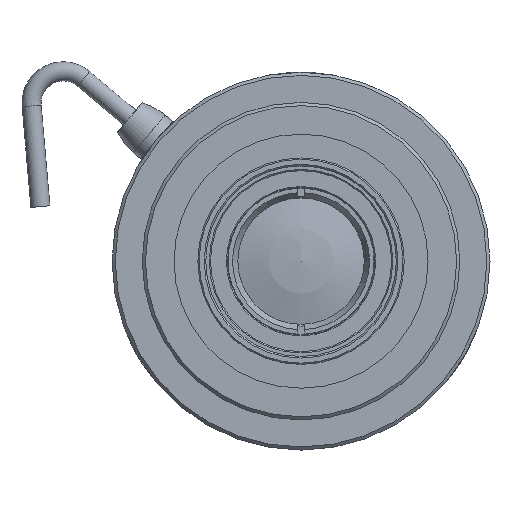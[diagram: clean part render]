
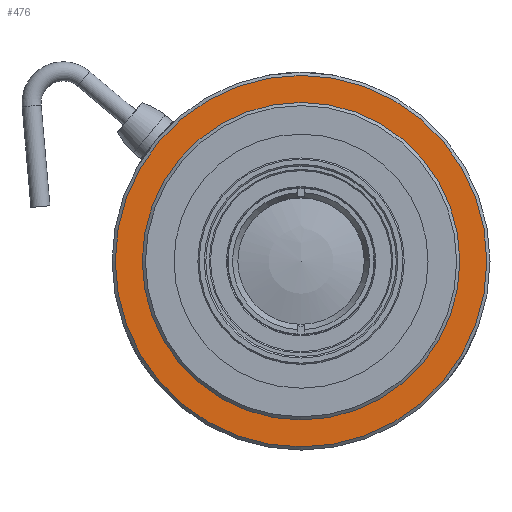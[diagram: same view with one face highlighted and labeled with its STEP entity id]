
A CAD part, front view. The second image highlights one B-rep face of the part: STEP entity #476.
In plain terms, the highlighted planar face has unit normal (0, -1, 0).
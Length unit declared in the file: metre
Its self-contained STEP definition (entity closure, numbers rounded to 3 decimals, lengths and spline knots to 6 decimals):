
#476=ADVANCED_FACE('0:3478',(#1174,#1175),#1176,.F.);
#1174=FACE_OUTER_BOUND('',#2202,.T.);
#1175=FACE_BOUND('',#2203,.T.);
#1176=PLANE('',#2204);
#2202=EDGE_LOOP('',(#3508));
#2203=EDGE_LOOP('',(#3509));
#2204=AXIS2_PLACEMENT_3D('',#3510,#3511,#3512);
#3508=ORIENTED_EDGE('',*,*,#5561,.F.);
#3509=ORIENTED_EDGE('',*,*,#5562,.T.);
#3510=CARTESIAN_POINT('',(0.0,-0.068226,0.02975));
#3511=DIRECTION('',(0.0,1.0,0.));
#3512=DIRECTION('',(0.0,0.,-1.0));
#5561=EDGE_CURVE('0:5188',#6640,#6640,#6641,.T.);
#5562=EDGE_CURVE('0:5185',#6642,#6642,#6643,.T.);
#6640=VERTEX_POINT('',#8165);
#6641=CIRCLE('',#8166,0.02925);
#6642=VERTEX_POINT('',#8167);
#6643=CIRCLE('',#8168,0.025);
#8165=CARTESIAN_POINT('',(0.0,-0.068226,0.02925));
#8166=AXIS2_PLACEMENT_3D('',#9708,#9709,#9710);
#8167=CARTESIAN_POINT('',(0.0,-0.068226,0.025));
#8168=AXIS2_PLACEMENT_3D('',#9711,#9712,#9713);
#9708=CARTESIAN_POINT('',(0.0,-0.068226,0.0));
#9709=DIRECTION('',(0.0,1.0,0.));
#9710=DIRECTION('',(0.0,0.,1.0));
#9711=CARTESIAN_POINT('',(0.0,-0.068226,0.));
#9712=DIRECTION('',(0.0,1.0,0.));
#9713=DIRECTION('',(0.0,0.,1.0));
